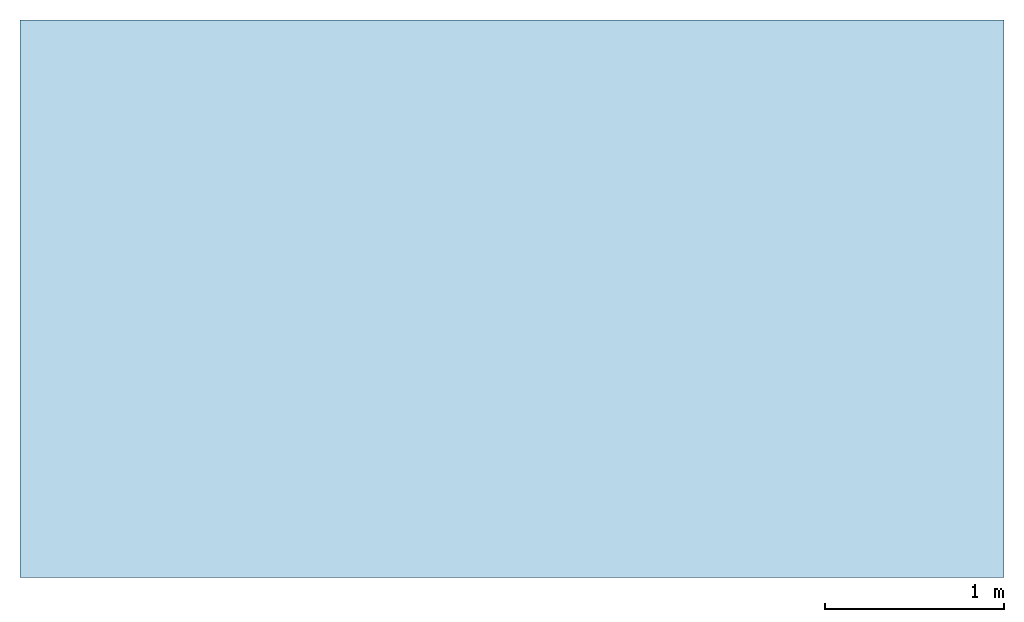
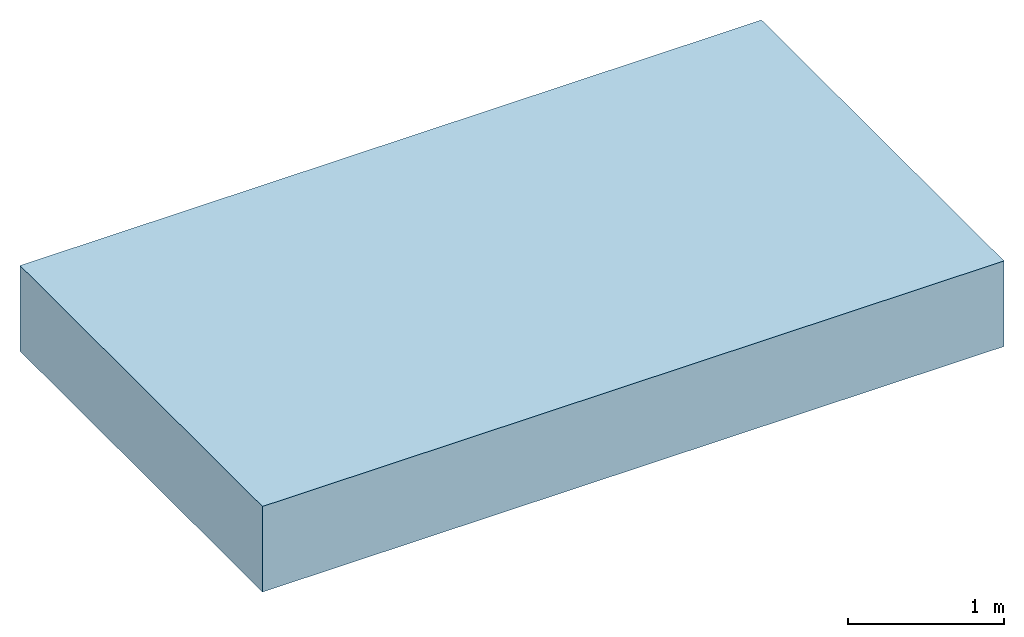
# One storey: 1 slab.
"""IFC2X3 building model written with IfcOpenShell, lengths in centimetres."""

from ifc_helpers import new_model, entity, si_unit, converted_unit, derived_unit, direction, frame, origin, origin_2d_with_axis, place, context, subcontext, project, spatial, rectangle, extrude, material, layer, layer_set, layer_usage, type_object, element, save


model = new_model("IFC2X3")

# Units and contexts
model_context = context("Model", 3, precision=0.001, world=origin(), true_north=direction((6.123031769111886e-17, 1.0)))
body_context = subcontext(model_context, "Body", "Model", "MODEL_VIEW")
ifc_project = project(units=[si_unit("LENGTHUNIT", "METRE", prefix="CENTI"), si_unit("AREAUNIT", "SQUARE_METRE"), si_unit("VOLUMEUNIT", "CUBIC_METRE"), converted_unit("PLANEANGLEUNIT", "DEGREE", entity("IfcRatioMeasure", 0.017453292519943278), si_unit("PLANEANGLEUNIT", "RADIAN"), dimensions=[0, 0, 0, 0, 0, 0, 0]), si_unit("MASSUNIT", "GRAM", prefix="KILO"), derived_unit("MASSDENSITYUNIT", [(si_unit("MASSUNIT", "GRAM", prefix="KILO"), 1), (si_unit("LENGTHUNIT", "METRE"), -3)]), derived_unit("MOMENTOFINERTIAUNIT", [(si_unit("LENGTHUNIT", "METRE"), 4)]), si_unit("TIMEUNIT", "SECOND"), si_unit("FREQUENCYUNIT", "HERTZ"), si_unit("THERMODYNAMICTEMPERATUREUNIT", "DEGREE_CELSIUS"), derived_unit("THERMALTRANSMITTANCEUNIT", [(si_unit("MASSUNIT", "GRAM", prefix="KILO"), 1), (si_unit("THERMODYNAMICTEMPERATUREUNIT", "KELVIN"), -1), (si_unit("TIMEUNIT", "SECOND"), -3)]), derived_unit("VOLUMETRICFLOWRATEUNIT", [(si_unit("LENGTHUNIT", "METRE"), 3), (si_unit("TIMEUNIT", "SECOND"), -1)]), derived_unit("MASSFLOWRATEUNIT", [(si_unit("MASSUNIT", "GRAM", prefix="KILO"), 1), (si_unit("TIMEUNIT", "SECOND"), -1)]), derived_unit("ROTATIONALFREQUENCYUNIT", [(si_unit("TIMEUNIT", "SECOND"), -1)]), si_unit("ELECTRICCURRENTUNIT", "AMPERE"), si_unit("ELECTRICVOLTAGEUNIT", "VOLT"), si_unit("POWERUNIT", "WATT"), si_unit("FORCEUNIT", "NEWTON", prefix="KILO"), si_unit("ILLUMINANCEUNIT", "LUX"), si_unit("LUMINOUSFLUXUNIT", "LUMEN"), si_unit("LUMINOUSINTENSITYUNIT", "CANDELA"), derived_unit("USERDEFINED", [(si_unit("MASSUNIT", "GRAM", prefix="KILO"), -1), (si_unit("LENGTHUNIT", "METRE"), -2), (si_unit("TIMEUNIT", "SECOND"), 3), (si_unit("LUMINOUSFLUXUNIT", "LUMEN"), 1)]), derived_unit("SOUNDPOWERUNIT", [(si_unit("MASSUNIT", "GRAM", prefix="KILO"), 1), (si_unit("LENGTHUNIT", "METRE"), 2), (si_unit("TIMEUNIT", "SECOND"), -3)]), derived_unit("SOUNDPRESSUREUNIT", [(si_unit("MASSUNIT", "GRAM", prefix="KILO"), 1), (si_unit("LENGTHUNIT", "METRE"), -1), (si_unit("TIMEUNIT", "SECOND"), -2)]), derived_unit("LINEARVELOCITYUNIT", [(si_unit("LENGTHUNIT", "METRE"), 1), (si_unit("TIMEUNIT", "SECOND"), -1)]), si_unit("PRESSUREUNIT", "PASCAL"), derived_unit("USERDEFINED", [(si_unit("LENGTHUNIT", "METRE"), -2), (si_unit("MASSUNIT", "GRAM", prefix="KILO"), 1), (si_unit("TIMEUNIT", "SECOND"), -2)]), derived_unit("LINEARFORCEUNIT", [(si_unit("MASSUNIT", "GRAM", prefix="KILO"), 1), (si_unit("LENGTHUNIT", "METRE"), 1), (si_unit("TIMEUNIT", "SECOND"), -2), (si_unit("LENGTHUNIT", "METRE"), -1)]), derived_unit("PLANARFORCEUNIT", [(si_unit("MASSUNIT", "GRAM", prefix="KILO"), 1), (si_unit("LENGTHUNIT", "METRE"), 1), (si_unit("TIMEUNIT", "SECOND"), -2), (si_unit("LENGTHUNIT", "METRE"), -2)])], contexts=[model_context])

# Site, building, storey
site_placement = place(None, origin())
site = spatial("IfcSite", under=ifc_project, at=site_placement, Name="Default", CompositionType="ELEMENT")
building_placement = place(site_placement, origin())
building = spatial("IfcBuilding", under=site, at=building_placement, CompositionType="ELEMENT")
storey_placement = place(building_placement, origin())
storey = spatial("IfcBuildingStorey", under=building, at=storey_placement, Name="1_Rez-de-chaussée", CompositionType="ELEMENT", Elevation=-7.93413063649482e-11)

# Slab
ifc_material_1 = material(Name="Maçonnerie - Béton")
ifc_layer_1 = layer(ifc_material_1, 12.0)
ifc_material_2 = material(Name="Forme par défaut")
ifc_layer_2 = layer(ifc_material_2, 55.0)
ifc_layer_set = layer_set([ifc_layer_1, ifc_layer_2], Name="Sol:Dallage partie garage")
ifc_layer_usage = layer_usage(ifc_layer_set, "AXIS3", "POSITIVE", 0.0)
slab_type = type_object("IfcSlabType", Name="Sol:Dallage partie garage", PredefinedType="FLOOR", material=ifc_layer_set)
slab_placement = place(storey_placement, origin())
element("IfcSlab", 1, at=slab_placement, inside=storey, type_object=slab_type, material=ifc_layer_usage, Name="Sol:Dallage partie garage", ObjectType="Sol:Dallage partie garage", PredefinedType="FLOOR", context=body_context, shape_type="SweptSolid", body=[
    extrude(rectangle(XDim=311.0000000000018, YDim=548.9999999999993, at=origin_2d_with_axis()), frame((-560.3253630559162, 756.1042960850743, -2.0), z_axis=(0.0, 0.0, -1.0), x_axis=(0.0, 1.0, 0.0)), (0.0, 0.0, 1.0), 67.00000000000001),
])

save(model, "model.ifc")
